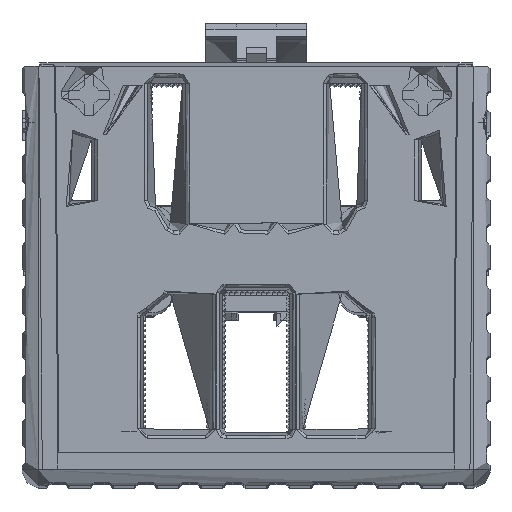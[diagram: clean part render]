
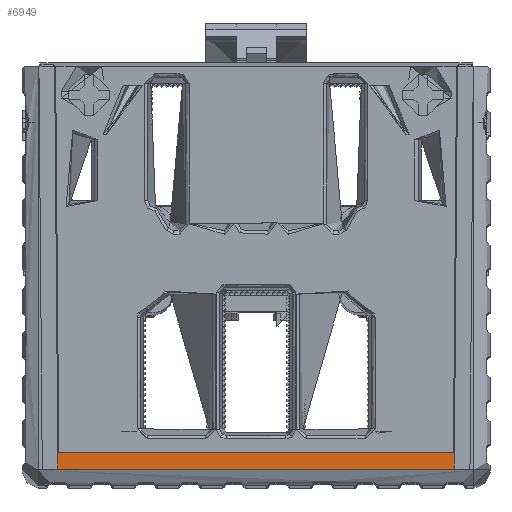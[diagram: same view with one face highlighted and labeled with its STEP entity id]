
A CAD part, top view. The second image highlights one B-rep face of the part: STEP entity #6949.
In plain terms, the highlighted free-form (B-spline) face has degree [1, 1] with [2, 2] control points.
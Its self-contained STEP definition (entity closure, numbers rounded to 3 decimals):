
#2387=B_SPLINE_SURFACE_WITH_KNOTS('',1,1,((#61428,#61429),(#61430,#61431)),
 .UNSPECIFIED.,.F.,.F.,.F.,(2,2),(2,2),(0.,1.),(2.098,4.598),
 .UNSPECIFIED.);
#6949=ADVANCED_FACE('',(#9622),#2387,.T.);
#9622=FACE_OUTER_BOUND('',#12301,.T.);
#12301=EDGE_LOOP('',(#15361,#15362,#15363,#15364));
#15361=ORIENTED_EDGE('',*,*,#31043,.T.);
#15362=ORIENTED_EDGE('',*,*,#31044,.T.);
#15363=ORIENTED_EDGE('',*,*,#31045,.T.);
#15364=ORIENTED_EDGE('',*,*,#31046,.T.);
#31043=EDGE_CURVE('',#50176,#50177,#43304,.T.);
#31044=EDGE_CURVE('',#50177,#50178,#43305,.T.);
#31045=EDGE_CURVE('',#50178,#50174,#43306,.T.);
#31046=EDGE_CURVE('',#50174,#50176,#43307,.T.);
#43304=B_SPLINE_CURVE_WITH_KNOTS('',1,(#70384,#70385),.UNSPECIFIED.,.F.,
 .F.,(2,2),(0.,1.),.UNSPECIFIED.);
#43305=B_SPLINE_CURVE_WITH_KNOTS('',1,(#70386,#70387),.UNSPECIFIED.,.F.,
 .F.,(2,2),(2.098,4.598),.UNSPECIFIED.);
#43306=B_SPLINE_CURVE_WITH_KNOTS('',1,(#70388,#70389),.UNSPECIFIED.,.F.,
 .F.,(2,2),(-1.,0.),.UNSPECIFIED.);
#43307=B_SPLINE_CURVE_WITH_KNOTS('',1,(#70390,#70391),.UNSPECIFIED.,.F.,
 .F.,(2,2),(-4.598,-2.098),.UNSPECIFIED.);
#50174=VERTEX_POINT('',#68383);
#50176=VERTEX_POINT('',#68385);
#50177=VERTEX_POINT('',#68386);
#50178=VERTEX_POINT('',#68387);
#61428=CARTESIAN_POINT('',(781.405,211.412,37.));
#61429=CARTESIAN_POINT('',(781.385,208.912,37.));
#61430=CARTESIAN_POINT('',(722.064,211.412,37.));
#61431=CARTESIAN_POINT('',(722.085,208.912,37.));
#68383=CARTESIAN_POINT('',(781.385,208.912,37.));
#68385=CARTESIAN_POINT('',(781.405,211.412,37.));
#68386=CARTESIAN_POINT('',(722.064,211.412,37.));
#68387=CARTESIAN_POINT('',(722.085,208.912,37.));
#70384=CARTESIAN_POINT('',(781.405,211.412,37.));
#70385=CARTESIAN_POINT('',(722.064,211.412,37.));
#70386=CARTESIAN_POINT('',(722.064,211.412,37.));
#70387=CARTESIAN_POINT('',(722.085,208.912,37.));
#70388=CARTESIAN_POINT('',(722.085,208.912,37.));
#70389=CARTESIAN_POINT('',(781.385,208.912,37.));
#70390=CARTESIAN_POINT('',(781.385,208.912,37.));
#70391=CARTESIAN_POINT('',(781.405,211.412,37.));
